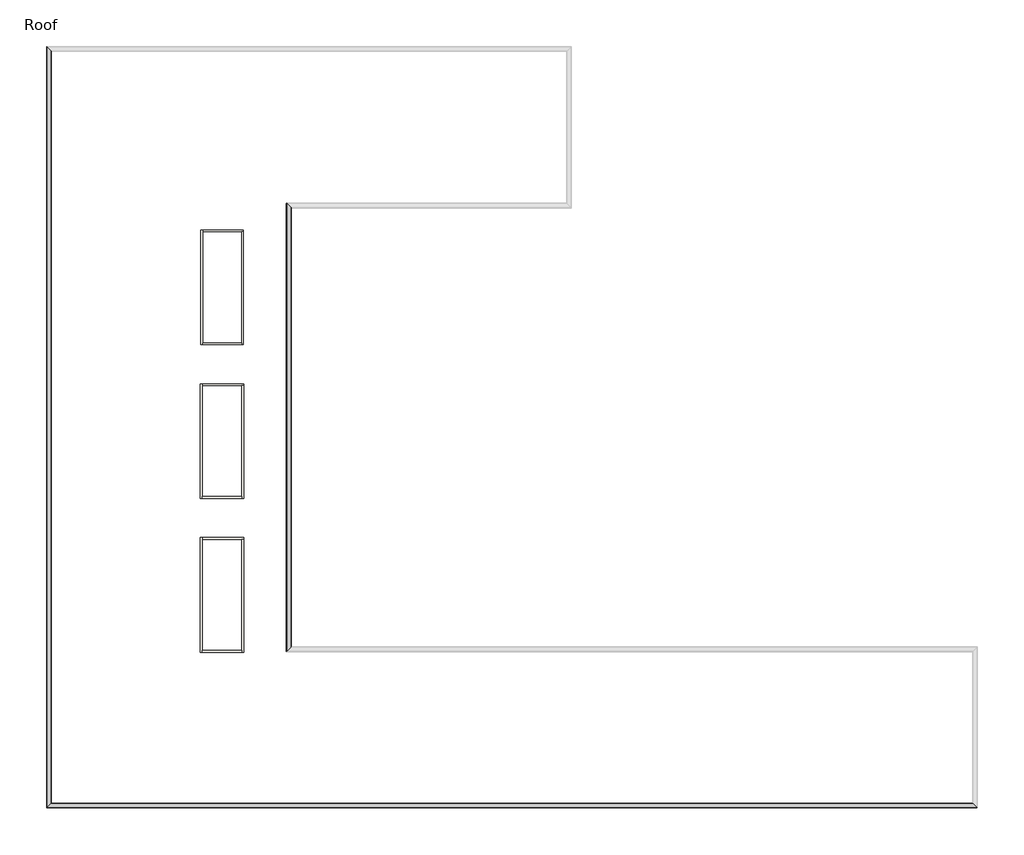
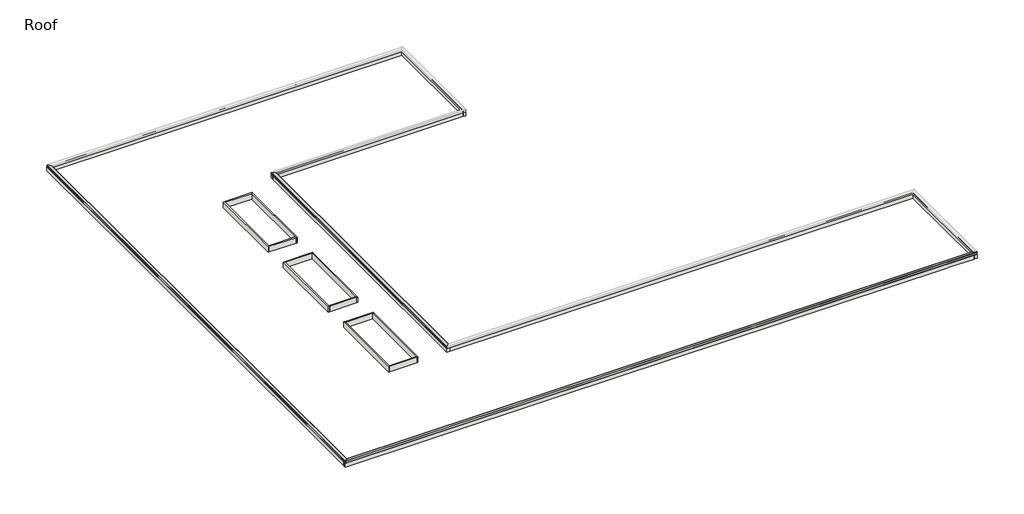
# One storey, part 1 of 2: 20 walls, 3 proxies.
"""IFC4 building model written with IfcOpenShell, lengths in millimetres."""

from ifc_helpers import new_model, si_unit, frame, origin, place, context, project, spatial, polyline, ellipse_curve, outline, extrude, faceted_brep, element, save
from ifc_brep_helpers import plane_surface, cylinder_surface, advanced_brep

model = new_model("IFC4")

# Units and contexts
model_context = context("Model", 3, world=origin())
ifc_project = project(units=[si_unit("LENGTHUNIT", "METRE", prefix="MILLI")], contexts=[model_context])

# Site, building, storey
site = spatial("IfcSite", under=ifc_project)
building = spatial("IfcBuilding", under=site)
storey = spatial("IfcBuildingStorey", under=building, Name="Roof", Elevation=10972.8)

# Proxies
placement = place(None, origin())
element("IfcBuildingElementProxy", 1, Name="Wall Sweeps", at=placement, inside=storey, context=model_context, shape_type="AdvancedBrep", body=[
    advanced_brep(
    [(17384.0457476, 42551.275, 11636.9329619), (17384.0457476, 42551.275, 11647.1824239), (17387.2207476, 42548.1, 11647.1824239), (17387.2207476, 42548.1, 11431.2824239), (17404.2349718, 42531.0857758, 11414.2681997), (17402.0062599, 42533.3144877, 11412.0394878), (17384.0457476, 42551.275, 11430.0), (17384.0457476, 42551.275, 11633.7462366), (17076.0707476, 42859.25, 11607.2537634), (17076.0707476, 42859.25, 11430.0), (17058.1102354, 42877.2105122, 11412.0394878), (17055.8651714, 42879.4555762, 11414.2845518), (17072.8957476, 42862.425, 11431.3151281), (17072.8957476, 42862.425, 11607.5268817), (17067.6672416, 42867.653506, 11607.0771178), (17068.7777162, 42866.5430314, 11609.8131313), (17384.0457476, 11201.325, 11636.9329619), (17068.7777162, 10886.0569685, 11609.8131313), (17067.6672416, 10884.9464939, 11607.0771178), (17072.8957476, 10890.175, 11607.5268817), (17072.8957476, 10890.175, 11431.3151281), (17055.8651714, 10873.1444237, 11414.2845518), (17058.1102354, 10875.3894877, 11412.0394878), (17076.0707476, 10893.35, 11430.0), (17076.0707476, 10893.35, 11607.2537634), (17384.0457476, 11201.325, 11633.7462366), (17384.0457476, 11201.325, 11430.0), (17402.0062599, 11219.2855122, 11412.0394878), (17404.2349718, 11221.5142242, 11414.2681997), (17387.2207476, 11204.5, 11431.2824239), (17387.2207476, 11204.5, 11647.1824239), (17384.0457476, 11201.325, 11647.1824239)],
    [
        (0, 1),
        (1, 2, ellipse_curve(frame((17385.6332476, 42549.6875, 11647.1824239), z_axis=(0.7071067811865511, 0.707106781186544, 0.0), x_axis=(-0.707106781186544, 0.707106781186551, 0.0)), 2.245064, 1.5875)),
        (2, 3),
        (3, 4),
        (4, 5),
        (5, 6),
        (6, 7),
        (7, 8),
        (8, 9),
        (9, 10),
        (10, 11),
        (11, 12),
        (12, 13),
        (13, 14),
        (14, 15, ellipse_curve(frame((17067.6672416, 42867.653506, 11608.6704804), z_axis=(0.7071067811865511, 0.707106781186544, 0.0), x_axis=(-0.707106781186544, 0.707106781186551, 0.0)), 2.2533551, 1.5933627)),
        (15, 0),
        (16, 17),
        (17, 18, ellipse_curve(frame((17067.6672416, 10884.9464939, 11608.6704804), z_axis=(0.7071067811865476, -0.7071067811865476, 0.0), x_axis=(0.7071067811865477, 0.7071067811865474, 0.0)), 2.2533551, 1.5933627)),
        (18, 19),
        (19, 20),
        (20, 21),
        (21, 22),
        (22, 23),
        (23, 24),
        (24, 25),
        (25, 26),
        (26, 27),
        (27, 28),
        (28, 29),
        (29, 30),
        (30, 31, ellipse_curve(frame((17385.6332476, 11202.9125, 11647.1824239), z_axis=(0.7071067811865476, -0.7071067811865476, 0.0), x_axis=(0.7071067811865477, 0.7071067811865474, 0.0)), 2.245064, 1.5875)),
        (31, 16),
        (0, 16),
        (31, 1),
        (30, 2),
        (29, 3),
        (28, 4),
        (27, 5),
        (26, 6),
        (25, 7),
        (24, 8),
        (23, 9),
        (22, 10),
        (21, 11),
        (20, 12),
        (19, 13),
        (18, 14),
        (17, 15),
    ],
    [
        plane_surface(frame((17377.6957476, 42557.625, 11277.6), z_axis=(0.7071067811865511, 0.707106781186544, 0.0), x_axis=(0.707106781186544, -0.7071067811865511, 0.0))),
        plane_surface(frame((17377.6957476, 11194.975, 11277.6), z_axis=(0.7071067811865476, -0.7071067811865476, 0.0), x_axis=(0.7071067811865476, 0.7071067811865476, 0.0))),
        plane_surface(frame((17384.0457476, 42551.275, 11636.9329619), z_axis=(-1.0, 0.0, 0.0), x_axis=(0.0, -1.0, 0.0))),
        cylinder_surface(frame((17385.6332476, 42557.625, 11647.1824239), z_axis=(0.0, 1.0, 0.0), x_axis=(-1.0, 0.0, 0.0)), 1.5875),
        plane_surface(frame((17387.2207476, 42548.1, 11647.1824239), z_axis=(1.0, 0.0, 0.0), x_axis=(0.0, -1.0, 0.0))),
        plane_surface(frame((17387.2207476, 42548.1, 11431.2824239), z_axis=(0.7071067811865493, 0.0, 0.7071067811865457), x_axis=(0.0, -1.0, 0.0))),
        plane_surface(frame((17404.2349718, 42531.0857758, 11414.2681997), z_axis=(0.7071067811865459, 0.0, -0.7071067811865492), x_axis=(0.0, -1.0, 0.0))),
        plane_surface(frame((17402.0062599, 42533.3144877, 11412.0394878), z_axis=(-0.7071067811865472, 0.0, -0.7071067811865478), x_axis=(0.0, -1.0, 0.0))),
        plane_surface(frame((17384.0457476, 42551.275, 11430.0), z_axis=(-1.0, 0.0, 0.0), x_axis=(0.0, -1.0, 0.0))),
        plane_surface(frame((17384.0457476, 42551.275, 11633.7462366), z_axis=(0.08570499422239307, 0.0, -0.9963205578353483), x_axis=(0.0, -1.0, 0.0))),
        plane_surface(frame((17076.0707476, 42859.25, 11607.2537634), z_axis=(1.0, 0.0, 0.0), x_axis=(0.0, -1.0, 0.0))),
        plane_surface(frame((17076.0707476, 42859.25, 11430.0), z_axis=(0.707106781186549, 0.0, -0.707106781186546), x_axis=(0.0, -1.0, 0.0))),
        plane_surface(frame((17058.1102354, 42877.2105122, 11412.0394878), z_axis=(-0.7071067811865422, 0.0, -0.7071067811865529), x_axis=(0.0, -1.0, 0.0))),
        plane_surface(frame((17055.8651714, 42879.4555762, 11414.2845518), z_axis=(-0.7071067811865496, 0.0, 0.7071067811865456), x_axis=(0.0, -1.0, 0.0))),
        plane_surface(frame((17072.8957476, 42862.425, 11431.3151281), z_axis=(-1.0, 0.0, 0.0), x_axis=(0.0, -1.0, 0.0))),
        plane_surface(frame((17072.8957476, 42862.425, 11607.5268817), z_axis=(0.08570499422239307, 0.0, -0.9963205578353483), x_axis=(0.0, -1.0, 0.0))),
        cylinder_surface(frame((17067.6672416, 42557.625, 11608.6704804), z_axis=(0.0, 1.0, 0.0), x_axis=(-1.0, 0.0, 0.0)), 1.5933627),
        plane_surface(frame((17068.7777162, 42866.5430314, 11609.8131313), z_axis=(-0.08570499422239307, 0.0, 0.9963205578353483), x_axis=(0.0, -1.0, 0.0))),
    ],
    [
        (0, [[1, 2, 3, 4, 5, 6, 7, 8, 9, 10, 11, 12, 13, 14, 15, 16]]),
        (1, [[17, 18, 19, 20, 21, 22, 23, 24, 25, 26, 27, 28, 29, 30, 31, 32]]),
        (2, [[-1, 33, -32, 34]]),
        (3, [[-2, -34, -31, 35]]),
        (4, [[-3, -35, -30, 36]]),
        (5, [[-4, -36, -29, 37]]),
        (6, [[-5, -37, -28, 38]]),
        (7, [[-6, -38, -27, 39]]),
        (8, [[-7, -39, -26, 40]]),
        (9, [[-8, -40, -25, 41]]),
        (10, [[-9, -41, -24, 42]]),
        (11, [[-10, -42, -23, 43]]),
        (12, [[-11, -43, -22, 44]]),
        (13, [[-12, -44, -21, 45]]),
        (14, [[-13, -45, -20, 46]]),
        (15, [[-14, -46, -19, 47]]),
        (16, [[-15, -47, -18, 48]]),
        (17, [[-16, -48, -17, -33]]),
    ],
),
])
element("IfcBuildingElementProxy", 2, Name="Wall Sweeps", at=placement, inside=storey, context=model_context, shape_type="AdvancedBrep", body=[
    advanced_brep(
    [(66317.1457476, -260.425, 11636.9329619), (66317.1457476, -260.425, 11647.1824239), (66320.3207476, -263.6, 11647.1824239), (66320.3207476, -263.6, 11431.2824239), (66337.3349718, -280.6142242, 11414.2681997), (66335.1062599, -278.3855123, 11412.0394878), (66317.1457476, -260.425, 11430.0), (66317.1457476, -260.425, 11633.7462366), (66009.1707476, 47.55, 11607.2537634), (66009.1707476, 47.55, 11430.0), (65991.2102354, 65.5105122, 11412.0394878), (65988.9651714, 67.7555762, 11414.2845518), (66005.9957476, 50.725, 11431.3151281), (66005.9957476, 50.725, 11607.5268817), (66000.7672416, 55.953506, 11607.0771178), (66001.8777162, 54.8430314, 11609.8131313), (-34.0042524, -260.425, 11636.9329619), (281.2637791, 54.8430314, 11609.8131313), (282.3742537, 55.953506, 11607.0771178), (277.1457476, 50.725, 11607.5268817), (277.1457476, 50.725, 11431.3151281), (294.1763239, 67.7555762, 11414.2845518), (291.9312599, 65.5105122, 11412.0394878), (273.9707476, 47.55, 11430.0), (273.9707476, 47.55, 11607.2537634), (-34.0042524, -260.425, 11633.7462366), (-34.0042524, -260.425, 11430.0), (-51.9647646, -278.3855123, 11412.0394878), (-54.1934766, -280.6142242, 11414.2681997), (-37.1792524, -263.6, 11431.2824239), (-37.1792524, -263.6, 11647.1824239), (-34.0042524, -260.425, 11647.1824239)],
    [
        (0, 1),
        (1, 2, ellipse_curve(frame((66318.7332476, -262.0125, 11647.1824239), z_axis=(0.7071067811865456, 0.7071067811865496, 0.0), x_axis=(0.7071067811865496, -0.7071067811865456, 0.0)), 2.245064, 1.5875)),
        (2, 3),
        (3, 4),
        (4, 5),
        (5, 6),
        (6, 7),
        (7, 8),
        (8, 9),
        (9, 10),
        (10, 11),
        (11, 12),
        (12, 13),
        (13, 14),
        (14, 15, ellipse_curve(frame((66000.7672416, 55.953506, 11608.6704804), z_axis=(0.7071067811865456, 0.7071067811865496, 0.0), x_axis=(0.7071067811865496, -0.7071067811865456, 0.0)), 2.2533551, 1.5933627)),
        (15, 0),
        (16, 17),
        (17, 18, ellipse_curve(frame((282.3742537, 55.953506, 11608.6704804), z_axis=(-0.7071067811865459, 0.7071067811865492, 0.0), x_axis=(0.707106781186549, 0.7071067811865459, 0.0)), 2.2533551, 1.5933627)),
        (18, 19),
        (19, 20),
        (20, 21),
        (21, 22),
        (22, 23),
        (23, 24),
        (24, 25),
        (25, 26),
        (26, 27),
        (27, 28),
        (28, 29),
        (29, 30),
        (30, 31, ellipse_curve(frame((-35.5917524, -262.0125, 11647.1824239), z_axis=(-0.7071067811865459, 0.7071067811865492, 0.0), x_axis=(0.707106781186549, 0.7071067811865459, 0.0)), 2.245064, 1.5875)),
        (31, 16),
        (0, 16),
        (31, 1),
        (30, 2),
        (29, 3),
        (28, 4),
        (27, 5),
        (26, 6),
        (25, 7),
        (24, 8),
        (23, 9),
        (22, 10),
        (21, 11),
        (20, 12),
        (19, 13),
        (18, 14),
        (17, 15),
    ],
    [
        plane_surface(frame((66310.7957476, -254.075, 11887.2), z_axis=(0.7071067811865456, 0.7071067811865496, 0.0), x_axis=(-0.7071067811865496, 0.7071067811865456, 0.0))),
        plane_surface(frame((-27.6542524, -254.075, 11887.2), z_axis=(-0.7071067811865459, 0.7071067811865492, 0.0), x_axis=(0.7071067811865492, 0.7071067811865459, 0.0))),
        plane_surface(frame((66317.1457476, -260.425, 11636.9329619), z_axis=(0.0, 1.0, 0.0), x_axis=(-1.0, 0.0, 0.0))),
        cylinder_surface(frame((66310.7957476, -262.0125, 11647.1824239), z_axis=(1.0, 0.0, 0.0), x_axis=(0.0, 1.0, 0.0)), 1.5875),
        plane_surface(frame((66320.3207476, -263.6, 11647.1824239), z_axis=(0.0, -1.0, 0.0), x_axis=(-1.0, 0.0, 0.0))),
        plane_surface(frame((66320.3207476, -263.6, 11431.2824239), z_axis=(0.0, -0.7071067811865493, 0.7071067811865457), x_axis=(-1.0, 0.0, 0.0))),
        plane_surface(frame((66337.3349718, -280.6142242, 11414.2681997), z_axis=(0.0, -0.7071067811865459, -0.7071067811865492), x_axis=(-1.0, 0.0, 0.0))),
        plane_surface(frame((66335.1062599, -278.3855123, 11412.0394878), z_axis=(0.0, 0.7071067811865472, -0.7071067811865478), x_axis=(-1.0, 0.0, 0.0))),
        plane_surface(frame((66317.1457476, -260.425, 11430.0), z_axis=(0.0, 1.0, 0.0), x_axis=(-1.0, 0.0, 0.0))),
        plane_surface(frame((66317.1457476, -260.425, 11633.7462366), z_axis=(0.0, -0.08570499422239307, -0.9963205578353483), x_axis=(-1.0, 0.0, 0.0))),
        plane_surface(frame((66009.1707476, 47.55, 11607.2537634), z_axis=(0.0, -1.0, 0.0), x_axis=(-1.0, 0.0, 0.0))),
        plane_surface(frame((66009.1707476, 47.55, 11430.0), z_axis=(0.0, -0.707106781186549, -0.707106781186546), x_axis=(-1.0, 0.0, 0.0))),
        plane_surface(frame((65991.2102354, 65.5105122, 11412.0394878), z_axis=(0.0, 0.7071067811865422, -0.7071067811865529), x_axis=(-1.0, 0.0, 0.0))),
        plane_surface(frame((65988.9651714, 67.7555762, 11414.2845518), z_axis=(0.0, 0.7071067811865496, 0.7071067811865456), x_axis=(-1.0, 0.0, 0.0))),
        plane_surface(frame((66005.9957476, 50.725, 11431.3151281), z_axis=(0.0, 1.0, 0.0), x_axis=(-1.0, 0.0, 0.0))),
        plane_surface(frame((66005.9957476, 50.725, 11607.5268817), z_axis=(0.0, -0.08570499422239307, -0.9963205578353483), x_axis=(-1.0, 0.0, 0.0))),
        cylinder_surface(frame((66310.7957476, 55.953506, 11608.6704804), z_axis=(1.0, 0.0, 0.0), x_axis=(0.0, 1.0, 0.0)), 1.5933627),
        plane_surface(frame((66001.8777162, 54.8430314, 11609.8131313), z_axis=(0.0, 0.08570499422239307, 0.9963205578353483), x_axis=(-1.0, 0.0, 0.0))),
    ],
    [
        (0, [[1, 2, 3, 4, 5, 6, 7, 8, 9, 10, 11, 12, 13, 14, 15, 16]]),
        (1, [[17, 18, 19, 20, 21, 22, 23, 24, 25, 26, 27, 28, 29, 30, 31, 32]]),
        (2, [[-1, 33, -32, 34]]),
        (3, [[-2, -34, -31, 35]]),
        (4, [[-3, -35, -30, 36]]),
        (5, [[-4, -36, -29, 37]]),
        (6, [[-5, -37, -28, 38]]),
        (7, [[-6, -38, -27, 39]]),
        (8, [[-7, -39, -26, 40]]),
        (9, [[-8, -40, -25, 41]]),
        (10, [[-9, -41, -24, 42]]),
        (11, [[-10, -42, -23, 43]]),
        (12, [[-11, -43, -22, 44]]),
        (13, [[-12, -44, -21, 45]]),
        (14, [[-13, -45, -20, 46]]),
        (15, [[-14, -46, -19, 47]]),
        (16, [[-15, -47, -18, 48]]),
        (17, [[-16, -48, -17, -33]]),
    ],
),
])
element("IfcBuildingElementProxy", 3, Name="Wall Sweeps", at=placement, inside=storey, context=model_context, shape_type="AdvancedBrep", body=[
    advanced_brep(
    [(-34.0042524, -260.425, 11636.9329619), (-34.0042524, -260.425, 11647.1824239), (-37.1792524, -263.6, 11647.1824239), (-37.1792524, -263.6, 11431.2824239), (-54.1934766, -280.6142242, 11414.2681997), (-51.9647646, -278.3855123, 11412.0394878), (-34.0042524, -260.425, 11430.0), (-34.0042524, -260.425, 11633.7462366), (273.9707476, 47.55, 11607.2537634), (273.9707476, 47.55, 11430.0), (291.9312599, 65.5105122, 11412.0394878), (294.1763239, 67.7555762, 11414.2845518), (277.1457476, 50.725, 11431.3151281), (277.1457476, 50.725, 11607.5268817), (282.3742537, 55.953506, 11607.0771178), (281.2637791, 54.8430314, 11609.8131313), (-34.0042524, 54038.425, 11636.9329619), (281.2637791, 53723.1569685, 11609.8131313), (282.3742537, 53722.0464939, 11607.0771178), (277.1457476, 53727.275, 11607.5268817), (277.1457476, 53727.275, 11431.3151281), (294.1763239, 53710.2444237, 11414.2845518), (291.9312599, 53712.4894877, 11412.0394878), (273.9707476, 53730.45, 11430.0), (273.9707476, 53730.45, 11607.2537634), (-34.0042524, 54038.425, 11633.7462366), (-34.0042524, 54038.425, 11430.0), (-51.9647646, 54056.3855122, 11412.0394878), (-54.1934766, 54058.6142242, 11414.2681997), (-37.1792524, 54041.6, 11431.2824239), (-37.1792524, 54041.6, 11647.1824239), (-34.0042524, 54038.425, 11647.1824239)],
    [
        (0, 1),
        (1, 2, ellipse_curve(frame((-35.5917524, -262.0125, 11647.1824239), z_axis=(0.7071067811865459, -0.7071067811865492, 0.0), x_axis=(-0.7071067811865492, -0.7071067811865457, 0.0)), 2.245064, 1.5875)),
        (2, 3),
        (3, 4),
        (4, 5),
        (5, 6),
        (6, 7),
        (7, 8),
        (8, 9),
        (9, 10),
        (10, 11),
        (11, 12),
        (12, 13),
        (13, 14),
        (14, 15, ellipse_curve(frame((282.3742537, 55.953506, 11608.6704804), z_axis=(0.7071067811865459, -0.7071067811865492, 0.0), x_axis=(-0.7071067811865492, -0.7071067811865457, 0.0)), 2.2533551, 1.5933627)),
        (15, 0),
        (16, 17),
        (17, 18, ellipse_curve(frame((282.3742537, 53722.0464939, 11608.6704804), z_axis=(0.7071067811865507, 0.7071067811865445, 0.0), x_axis=(0.7071067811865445, -0.7071067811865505, 0.0)), 2.2533551, 1.5933627)),
        (18, 19),
        (19, 20),
        (20, 21),
        (21, 22),
        (22, 23),
        (23, 24),
        (24, 25),
        (25, 26),
        (26, 27),
        (27, 28),
        (28, 29),
        (29, 30),
        (30, 31, ellipse_curve(frame((-35.5917524, 54040.0125, 11647.1824239), z_axis=(0.7071067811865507, 0.7071067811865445, 0.0), x_axis=(0.7071067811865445, -0.7071067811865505, 0.0)), 2.245064, 1.5875)),
        (31, 16),
        (0, 16),
        (31, 1),
        (30, 2),
        (29, 3),
        (28, 4),
        (27, 5),
        (26, 6),
        (25, 7),
        (24, 8),
        (23, 9),
        (22, 10),
        (21, 11),
        (20, 12),
        (19, 13),
        (18, 14),
        (17, 15),
    ],
    [
        plane_surface(frame((-27.6542524, -254.075, 11887.2), z_axis=(0.7071067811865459, -0.7071067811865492, 0.0), x_axis=(0.7071067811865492, 0.7071067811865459, 0.0))),
        plane_surface(frame((-27.6542524, 54032.075, 11887.2), z_axis=(0.7071067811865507, 0.7071067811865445, 0.0), x_axis=(0.7071067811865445, -0.7071067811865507, 0.0))),
        plane_surface(frame((-34.0042524, -260.425, 11636.9329619), z_axis=(1.0, 0.0, 0.0), x_axis=(0.0, 1.0, 0.0))),
        cylinder_surface(frame((-35.5917524, -254.075, 11647.1824239), z_axis=(0.0, -1.0, 0.0), x_axis=(1.0, 0.0, 0.0)), 1.5875),
        plane_surface(frame((-37.1792524, -263.6, 11647.1824239), z_axis=(-1.0, 0.0, 0.0), x_axis=(0.0, 1.0, 0.0))),
        plane_surface(frame((-37.1792524, -263.6, 11431.2824239), z_axis=(-0.7071067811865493, 0.0, 0.7071067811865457), x_axis=(0.0, 1.0, 0.0))),
        plane_surface(frame((-54.1934766, -280.6142242, 11414.2681997), z_axis=(-0.7071067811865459, 0.0, -0.7071067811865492), x_axis=(0.0, 1.0, 0.0))),
        plane_surface(frame((-51.9647646, -278.3855123, 11412.0394878), z_axis=(0.7071067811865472, 0.0, -0.7071067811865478), x_axis=(0.0, 1.0, 0.0))),
        plane_surface(frame((-34.0042524, -260.425, 11430.0), z_axis=(1.0, 0.0, 0.0), x_axis=(0.0, 1.0, 0.0))),
        plane_surface(frame((-34.0042524, -260.425, 11633.7462366), z_axis=(-0.08570499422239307, 0.0, -0.9963205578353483), x_axis=(0.0, 1.0, 0.0))),
        plane_surface(frame((273.9707476, 47.55, 11607.2537634), z_axis=(-1.0, 0.0, 0.0), x_axis=(0.0, 1.0, 0.0))),
        plane_surface(frame((273.9707476, 47.55, 11430.0), z_axis=(-0.707106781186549, 0.0, -0.707106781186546), x_axis=(0.0, 1.0, 0.0))),
        plane_surface(frame((291.9312599, 65.5105122, 11412.0394878), z_axis=(0.7071067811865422, 0.0, -0.7071067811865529), x_axis=(0.0, 1.0, 0.0))),
        plane_surface(frame((294.1763239, 67.7555762, 11414.2845518), z_axis=(0.7071067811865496, 0.0, 0.7071067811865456), x_axis=(0.0, 1.0, 0.0))),
        plane_surface(frame((277.1457476, 50.725, 11431.3151281), z_axis=(1.0, 0.0, 0.0), x_axis=(0.0, 1.0, 0.0))),
        plane_surface(frame((277.1457476, 50.725, 11607.5268817), z_axis=(-0.08570499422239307, 0.0, -0.9963205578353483), x_axis=(0.0, 1.0, 0.0))),
        cylinder_surface(frame((282.3742537, -254.075, 11608.6704804), z_axis=(0.0, -1.0, 0.0), x_axis=(1.0, 0.0, 0.0)), 1.5933627),
        plane_surface(frame((281.2637791, 54.8430314, 11609.8131313), z_axis=(0.08570499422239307, 0.0, 0.9963205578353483), x_axis=(0.0, 1.0, 0.0))),
    ],
    [
        (0, [[1, 2, 3, 4, 5, 6, 7, 8, 9, 10, 11, 12, 13, 14, 15, 16]]),
        (1, [[17, 18, 19, 20, 21, 22, 23, 24, 25, 26, 27, 28, 29, 30, 31, 32]]),
        (2, [[-1, 33, -32, 34]]),
        (3, [[-2, -34, -31, 35]]),
        (4, [[-3, -35, -30, 36]]),
        (5, [[-4, -36, -29, 37]]),
        (6, [[-5, -37, -28, 38]]),
        (7, [[-6, -38, -27, 39]]),
        (8, [[-7, -39, -26, 40]]),
        (9, [[-8, -40, -25, 41]]),
        (10, [[-9, -41, -24, 42]]),
        (11, [[-10, -42, -23, 43]]),
        (12, [[-11, -43, -22, 44]]),
        (13, [[-12, -44, -21, 45]]),
        (14, [[-13, -45, -20, 46]]),
        (15, [[-14, -46, -19, 47]]),
        (16, [[-15, -47, -18, 48]]),
        (17, [[-16, -48, -17, -33]]),
    ],
),
])

# Walls
element("IfcWall", 4, ObjectType="Exterior - Parapet EIFS on CMU", at=placement, inside=storey, context=model_context, shape_type="Brep", body=[
    faceted_brep([(37059.5207476, 54032.075, 10972.8), (37059.5207476, 53736.8, 10972.8), (37059.5207476, 42852.9, 10972.8), (37059.5207476, 42557.625, 10972.8), (37059.5207476, 42557.625, 11582.4), (37059.5207476, 42852.9, 11582.4), (37059.5207476, 53736.8, 11582.4), (37059.5207476, 54032.075, 11582.4), (37354.7957476, 54032.075, 10972.8), (37354.7957476, 54032.075, 11582.4), (37354.7957476, 42557.625, 11582.4), (37354.7957476, 42557.625, 10972.8), (37354.7957476, 45545.3, 10972.8)], [[[0, 1, 2, 3, 4, 5, 6, 7]], [[8, 9, 10, 11, 12]], [[3, 2, 1, 0, 8, 12, 11]], [[7, 6, 5, 4, 10, 9]], [[4, 3, 11, 10]], [[0, 7, 9, 8]]]),
])
element("IfcWall", 5, ObjectType="Exterior - Parapet EIFS on CMU", at=placement, inside=storey, context=model_context, shape_type="Brep", body=[
    faceted_brep([(37059.5207476, 42852.9, 10972.8), (17082.4207476, 42852.9, 10972.8), (17082.4207476, 42852.9, 11582.4), (37059.5207476, 42852.9, 11582.4), (37059.5207476, 42557.625, 10972.8), (37059.5207476, 42557.625, 11582.4), (17377.6957476, 42557.625, 11582.4), (17082.4207476, 42557.625, 11582.4), (17082.4207476, 42557.625, 10972.8), (17377.6957476, 42557.625, 10972.8)], [[[0, 1, 2, 3]], [[4, 5, 6, 7, 8, 9]], [[1, 0, 4, 9, 8]], [[3, 2, 7, 6, 5]], [[2, 1, 8, 7]], [[0, 3, 5, 4]]]),
])
element("IfcWall", 6, ObjectType="Exterior - Parapet EIFS on CMU", at=placement, inside=storey, context=model_context, shape_type="Brep", body=[
    faceted_brep([(17082.4207476, 42557.625, 10972.8), (17082.4207476, 10899.7, 10972.8), (17082.4207476, 10899.7, 11582.4), (17082.4207476, 42557.625, 11582.4), (17377.6957476, 42557.625, 10972.8), (17377.6957476, 42557.625, 11582.4), (17377.6957476, 11194.975, 11582.4), (17377.6957476, 10899.7, 11582.4), (17377.6957476, 10899.7, 10972.8), (17377.6957476, 11194.975, 10972.8)], [[[0, 1, 2, 3]], [[4, 5, 6, 7, 8, 9]], [[1, 0, 4, 9, 8]], [[3, 2, 7, 6, 5]], [[2, 1, 8, 7]], [[0, 3, 5, 4]]]),
])
element("IfcWall", 7, ObjectType="Exterior - Parapet EIFS on CMU", at=placement, inside=storey, context=model_context, shape_type="Brep", body=[
    faceted_brep([(17377.6957476, 10899.7, 10972.8), (66015.5207476, 10899.7, 10972.8), (66310.7957476, 10899.7, 10972.8), (66310.7957476, 10899.7, 11582.4), (66015.5207476, 10899.7, 11582.4), (17377.6957476, 10899.7, 11582.4), (17377.6957476, 11194.975, 10972.8), (17377.6957476, 11194.975, 11582.4), (66310.7957476, 11194.975, 11582.4), (66310.7957476, 11194.975, 10972.8)], [[[0, 1, 2, 3, 4, 5]], [[6, 7, 8, 9]], [[2, 1, 0, 6, 9]], [[5, 4, 3, 8, 7]], [[3, 2, 9, 8]], [[0, 5, 7, 6]]]),
])
element("IfcWall", 8, ObjectType="Exterior - Parapet EIFS on CMU", at=placement, inside=storey, context=model_context, shape_type="Brep", body=[
    faceted_brep([(66015.5207476, 10899.7, 10972.8), (66015.5207476, 41.2, 10972.8), (66015.5207476, -254.075, 10972.8), (66015.5207476, -254.075, 11582.4), (66015.5207476, 41.2, 11582.4), (66015.5207476, 10899.7, 11582.4), (66310.7957476, 10899.7, 10972.8), (66310.7957476, 10899.7, 11582.4), (66310.7957476, -254.075, 11582.4), (66310.7957476, -254.075, 10972.8), (66310.7957476, 53.9, 10972.8), (66310.7957476, 8334.3, 10972.8)], [[[0, 1, 2, 3, 4, 5]], [[6, 7, 8, 9, 10, 11]], [[2, 1, 0, 6, 11, 10, 9]], [[5, 4, 3, 8, 7]], [[3, 2, 9, 8]], [[0, 5, 7, 6]]]),
])
element("IfcWall", 9, ObjectType="Exterior - Parapet EIFS on CMU", at=placement, inside=storey, context=model_context, shape_type="Brep", body=[
    faceted_brep([(66015.5207476, 41.2, 10972.8), (267.6207476, 41.2, 10972.8), (-27.6542524, 41.2, 10972.8), (-27.6542524, 41.2, 11582.4), (267.6207476, 41.2, 11582.4), (66015.5207476, 41.2, 11582.4), (66015.5207476, -254.075, 10972.8), (66015.5207476, -254.075, 11582.4), (-27.6542524, -254.075, 11582.4), (-27.6542524, -254.075, 10972.8), (8357.5207476, -254.075, 10972.8), (22429.1207476, -254.075, 10972.8), (63145.3207476, -254.075, 10972.8), (63348.5207476, -254.075, 10972.8), (66002.8207476, -254.075, 10972.8)], [[[0, 1, 2, 3, 4, 5]], [[6, 7, 8, 9, 10, 11, 12, 13, 14]], [[2, 1, 0, 6, 14, 13, 12, 11, 10, 9]], [[5, 4, 3, 8, 7]], [[3, 2, 9, 8]], [[0, 5, 7, 6]]]),
])
element("IfcWall", 10, ObjectType="Exterior - Parapet EIFS on CMU", at=placement, inside=storey, context=model_context, shape_type="Brep", body=[
    faceted_brep([(267.6207476, 41.2, 10972.8), (267.6207476, 53736.8, 10972.8), (267.6207476, 54032.075, 10972.8), (267.6207476, 54032.075, 11582.4), (267.6207476, 53736.8, 11582.4), (267.6207476, 41.2, 11582.4), (-27.6542524, 54032.075, 10972.8), (-27.6542524, 45735.8, 10972.8), (-27.6542524, 40173.2, 10972.8), (-27.6542524, 40097.0, 10972.8), (-27.6542524, 28590.8, 10972.8), (-27.6542524, 28514.6, 10972.8), (-27.6542524, 25631.7, 10972.8), (-27.6542524, 41.2, 10972.8), (-27.6542524, 41.2, 11582.4), (-27.6542524, 54032.075, 11582.4)], [[[0, 1, 2, 3, 4, 5]], [[6, 7, 8, 9, 10, 11, 12, 13, 14, 15]], [[2, 1, 0, 13, 12, 11, 10, 9, 8, 7, 6]], [[5, 4, 3, 15, 14]], [[0, 5, 14, 13]], [[3, 2, 6, 15]]]),
])
element("IfcWall", 11, ObjectType="Exterior - Parapet EIFS on CMU", at=placement, inside=storey, context=model_context, shape_type="Brep", body=[
    faceted_brep([(267.6207476, 53736.8, 10972.8), (37059.5207476, 53736.8, 10972.8), (37059.5207476, 53736.8, 11582.4), (267.6207476, 53736.8, 11582.4), (267.6207476, 54032.075, 10972.8), (267.6207476, 54032.075, 11582.4), (37059.5207476, 54032.075, 11582.4), (37059.5207476, 54032.075, 10972.8), (34405.2207476, 54032.075, 10972.8), (16485.5207476, 54032.075, 10972.8)], [[[0, 1, 2, 3]], [[4, 5, 6, 7, 8, 9]], [[1, 0, 4, 9, 8, 7]], [[3, 2, 6, 5]], [[2, 1, 7, 6]], [[0, 3, 5, 4]]]),
])
element("IfcWall", 12, ObjectType="Generic - 5\"", at=placement, inside=storey, context=model_context, shape_type="Brep", body=[
    faceted_brep([(13998.9313551, 19015.0, 10972.8), (11051.7313551, 19015.0, 10972.8), (11051.7313551, 19015.0, 11582.4), (13998.9313551, 19015.0, 11582.4), (13998.9313551, 18888.0, 10972.8), (13998.9313551, 18888.0, 11582.4), (13871.9313551, 18888.0, 11582.4), (11051.7313551, 18888.0, 11582.4), (11051.7313551, 18888.0, 10972.8), (13871.9313551, 18888.0, 10972.8)], [[[0, 1, 2, 3]], [[4, 5, 6, 7, 8, 9]], [[1, 0, 4, 9, 8]], [[3, 2, 7, 6, 5]], [[0, 3, 5, 4]], [[2, 1, 8, 7]]]),
])
element("IfcWall", 13, ObjectType="Generic - 5\"", at=placement, inside=storey, context=model_context, shape_type="Brep", body=[
    faceted_brep([(13998.9313551, 10836.2, 10972.8), (13998.9313551, 18888.0, 10972.8), (13998.9313551, 18888.0, 11582.4), (13998.9313551, 10836.2, 11582.4), (13871.9313551, 10836.2, 10972.8), (13871.9313551, 10836.2, 11582.4), (13871.9313551, 10963.2, 11582.4), (13871.9313551, 18888.0, 11582.4), (13871.9313551, 18888.0, 10972.8), (13871.9313551, 10963.2, 10972.8)], [[[0, 1, 2, 3]], [[4, 5, 6, 7, 8, 9]], [[1, 0, 4, 9, 8]], [[3, 2, 7, 6, 5]], [[0, 3, 5, 4]], [[2, 1, 8, 7]]]),
])
element("IfcWall", 14, ObjectType="Generic - 5\"", at=placement, inside=storey, context=model_context, shape_type="SweptSolid", body=[
    extrude(outline(polyline([(13871.9313551, 10836.2), (11051.7313551, 10836.2), (11051.7313551, 10963.2), (13871.9313551, 10963.2), (13871.9313551, 10836.2)])), frame((0.0, 0.0, 10972.8), z_axis=(0.0, 0.0, 1.0), x_axis=(1.0, 0.0, 0.0)), (0.0, 0.0, 1.0), 609.6),
])
element("IfcWall", 15, ObjectType="Generic - 5\"", at=placement, inside=storey, context=model_context, shape_type="Brep", body=[
    faceted_brep([(10924.7313551, 19015.0, 10972.8), (10924.7313551, 10836.2, 10972.8), (10924.7313551, 10836.2, 11582.4), (10924.7313551, 19015.0, 11582.4), (11051.7313551, 19015.0, 10972.8), (11051.7313551, 19015.0, 11582.4), (11051.7313551, 18888.0, 11582.4), (11051.7313551, 10963.2, 11582.4), (11051.7313551, 10836.2, 11582.4), (11051.7313551, 10836.2, 10972.8), (11051.7313551, 10963.2, 10972.8), (11051.7313551, 18888.0, 10972.8)], [[[0, 1, 2, 3]], [[4, 5, 6, 7, 8, 9, 10, 11]], [[1, 0, 4, 11, 10, 9]], [[3, 2, 8, 7, 6, 5]], [[0, 3, 5, 4]], [[2, 1, 9, 8]]]),
])
element("IfcWall", 16, ObjectType="Generic - 5\"", at=placement, inside=storey, context=model_context, shape_type="Brep", body=[
    faceted_brep([(13998.9313552, 29987.8, 10972.8), (11051.7313551, 29987.8, 10972.8), (11051.7313551, 29987.8, 11582.4), (13998.9313552, 29987.8, 11582.4), (13998.9313552, 29860.8, 10972.8), (13998.9313552, 29860.8, 11582.4), (13871.9313552, 29860.8, 11582.4), (11051.7313551, 29860.8, 11582.4), (11051.7313551, 29860.8, 10972.8), (13871.9313552, 29860.8, 10972.8)], [[[0, 1, 2, 3]], [[4, 5, 6, 7, 8, 9]], [[1, 0, 4, 9, 8]], [[3, 2, 7, 6, 5]], [[0, 3, 5, 4]], [[2, 1, 8, 7]]]),
])
element("IfcWall", 17, ObjectType="Generic - 5\"", at=placement, inside=storey, context=model_context, shape_type="Brep", body=[
    faceted_brep([(13998.9313552, 21809.0, 10972.8), (13998.9313552, 29860.8, 10972.8), (13998.9313552, 29860.8, 11582.4), (13998.9313552, 21809.0, 11582.4), (13871.9313552, 21809.0, 10972.8), (13871.9313552, 21809.0, 11582.4), (13871.9313552, 21936.0, 11582.4), (13871.9313552, 29860.8, 11582.4), (13871.9313552, 29860.8, 10972.8), (13871.9313552, 21936.0, 10972.8)], [[[0, 1, 2, 3]], [[4, 5, 6, 7, 8, 9]], [[1, 0, 4, 9, 8]], [[3, 2, 7, 6, 5]], [[0, 3, 5, 4]], [[2, 1, 8, 7]]]),
])
element("IfcWall", 18, ObjectType="Generic - 5\"", at=placement, inside=storey, context=model_context, shape_type="SweptSolid", body=[
    extrude(outline(polyline([(13871.9313552, 21809.0), (11051.7313551, 21809.0), (11051.7313551, 21936.0), (13871.9313552, 21936.0), (13871.9313552, 21809.0)])), frame((0.0, 0.0, 10972.8), z_axis=(0.0, 0.0, 1.0), x_axis=(1.0, 0.0, 0.0)), (0.0, 0.0, 1.0), 609.6),
])
element("IfcWall", 19, ObjectType="Generic - 5\"", at=placement, inside=storey, context=model_context, shape_type="Brep", body=[
    faceted_brep([(10924.7313551, 29987.8, 10972.8), (10924.7313551, 21809.0, 10972.8), (10924.7313551, 21809.0, 11582.4), (10924.7313551, 29987.8, 11582.4), (11051.7313551, 29987.8, 10972.8), (11051.7313551, 29987.8, 11582.4), (11051.7313551, 29860.8, 11582.4), (11051.7313551, 21936.0, 11582.4), (11051.7313551, 21809.0, 11582.4), (11051.7313551, 21809.0, 10972.8), (11051.7313551, 21936.0, 10972.8), (11051.7313551, 29860.8, 10972.8)], [[[0, 1, 2, 3]], [[4, 5, 6, 7, 8, 9, 10, 11]], [[1, 0, 4, 11, 10, 9]], [[3, 2, 8, 7, 6, 5]], [[0, 3, 5, 4]], [[2, 1, 9, 8]]]),
])
element("IfcWall", 20, ObjectType="Generic - 5\"", at=placement, inside=storey, context=model_context, shape_type="Brep", body=[
    faceted_brep([(13988.9313552, 40960.6, 10972.8), (11071.9313551, 40960.6, 10972.8), (11071.9313551, 40960.6, 11582.4), (13988.9313552, 40960.6, 11582.4), (13988.9313552, 40833.6, 10972.8), (13988.9313552, 40833.6, 11582.4), (13861.9313552, 40833.6, 11582.4), (11071.9313551, 40833.6, 11582.4), (11071.9313551, 40833.6, 10972.8), (13861.9313552, 40833.6, 10972.8)], [[[0, 1, 2, 3]], [[4, 5, 6, 7, 8, 9]], [[1, 0, 4, 9, 8]], [[3, 2, 7, 6, 5]], [[0, 3, 5, 4]], [[2, 1, 8, 7]]]),
])
element("IfcWall", 21, ObjectType="Generic - 5\"", at=placement, inside=storey, context=model_context, shape_type="Brep", body=[
    faceted_brep([(13988.9313552, 32781.8, 10972.8), (13988.9313552, 40833.6, 10972.8), (13988.9313552, 40833.6, 11582.4), (13988.9313552, 32781.8, 11582.4), (13861.9313552, 32781.8, 10972.8), (13861.9313552, 32781.8, 11582.4), (13861.9313552, 32908.8, 11582.4), (13861.9313552, 40833.6, 11582.4), (13861.9313552, 40833.6, 10972.8), (13861.9313552, 32908.8, 10972.8)], [[[0, 1, 2, 3]], [[4, 5, 6, 7, 8, 9]], [[1, 0, 4, 9, 8]], [[3, 2, 7, 6, 5]], [[0, 3, 5, 4]], [[2, 1, 8, 7]]]),
])
element("IfcWall", 22, ObjectType="Generic - 5\"", at=placement, inside=storey, context=model_context, shape_type="SweptSolid", body=[
    extrude(outline(polyline([(13861.9313552, 32781.8), (11071.9313551, 32781.8), (11071.9313551, 32908.8), (13861.9313552, 32908.8), (13861.9313552, 32781.8)])), frame((0.0, 0.0, 10972.8), z_axis=(0.0, 0.0, 1.0), x_axis=(1.0, 0.0, 0.0)), (0.0, 0.0, 1.0), 609.6),
])
element("IfcWall", 23, ObjectType="Generic - 5\"", at=placement, inside=storey, context=model_context, shape_type="Brep", body=[
    faceted_brep([(10944.9313551, 40960.6, 10972.8), (10944.9313551, 32781.8, 10972.8), (10944.9313551, 32781.8, 11582.4), (10944.9313551, 40960.6, 11582.4), (11071.9313551, 40960.6, 10972.8), (11071.9313551, 40960.6, 11582.4), (11071.9313551, 40833.6, 11582.4), (11071.9313551, 32908.8, 11582.4), (11071.9313551, 32781.8, 11582.4), (11071.9313551, 32781.8, 10972.8), (11071.9313551, 32908.8, 10972.8), (11071.9313551, 40833.6, 10972.8)], [[[0, 1, 2, 3]], [[4, 5, 6, 7, 8, 9, 10, 11]], [[1, 0, 4, 11, 10, 9]], [[3, 2, 8, 7, 6, 5]], [[0, 3, 5, 4]], [[2, 1, 9, 8]]]),
])

save(model, "model.ifc")
